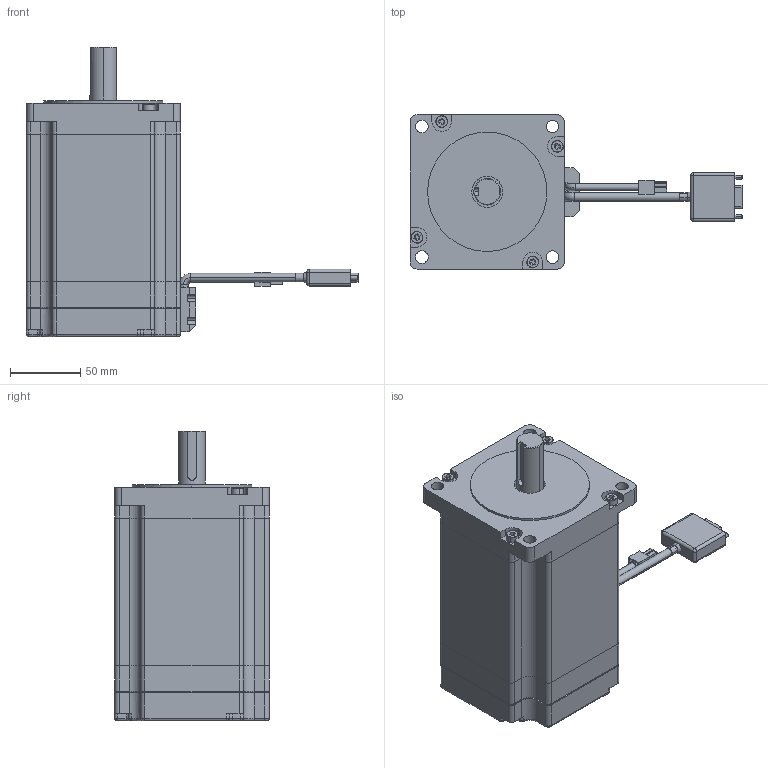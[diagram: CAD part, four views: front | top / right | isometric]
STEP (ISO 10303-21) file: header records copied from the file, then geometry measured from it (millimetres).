
FILE_DESCRIPTION (( 'STEP AP203' ), '1' );
FILE_NAME ('110HS3160-05.STEP', '2020-09-10T06:35:37', ( 'Windows' ), ( 'Microsoft' ), 'SwSTEP 2.0', 'SolidWorks 2015', '' );
FILE_SCHEMA (( 'CONFIG_CONTROL_DESIGN' ));
Length unit declared in the file: millimetre
Products named in the file (10): 25.6x16邧揤盄裔; 110HS3160-05; 110隅赽105; 110ヶ傷裔湮楊擘; 110綴傷裔; DBͷ; 110粣粣噤19瑩羞; HX42000-4R; M5X90囀鞠褒埴翐芛; 晤鎢ん綴欶
Assembly tree (12 placements, depth 2):
  110HS3160-05
    110隅赽105
    110ヶ傷裔湮楊擘
    110綴傷裔
    110粣粣噤19瑩羞
    M5X90囀鞠褒埴翐芛  x4
    25.6x16邧揤盄裔
    DBͷ
    HX42000-4R
    晤鎢ん綴欶
Bounding box: 236.5 x 110 x 206.5 mm (x, y, z)
Volume: 1725721 mm3; surface area: 197321.2 mm2
Topology: 16 solids, 16 shells, 652 faces, 1584 edges, 1000 vertices
Faces by surface type: plane 328, cylinder 262, torus 37, cone 13, sphere 12
Entity records: 18553 total; most frequent: DIRECTION 3133, CARTESIAN_POINT 3087, ORIENTED_EDGE 2872, EDGE_CURVE 1436, AXIS2_PLACEMENT_3D 1110, VERTEX_POINT 916, LINE 913, VECTOR 913
